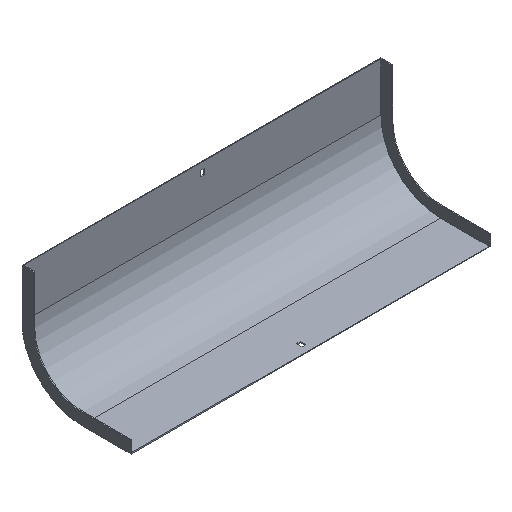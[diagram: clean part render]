
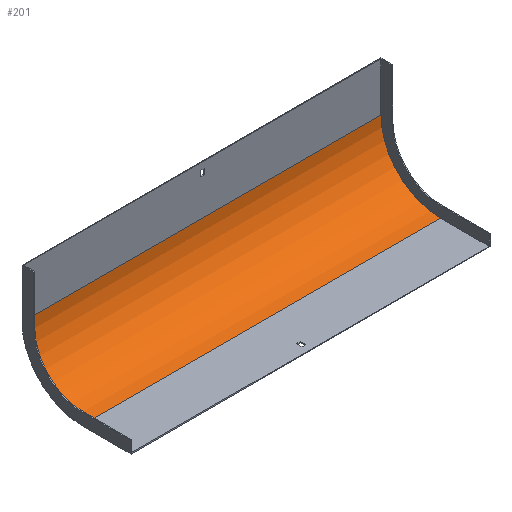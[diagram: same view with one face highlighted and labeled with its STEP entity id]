
A CAD part, isometric view. The second image highlights one B-rep face of the part: STEP entity #201.
In plain terms, the highlighted cylindrical face has radius 100 mm (diameter 200 mm), a partial arc.
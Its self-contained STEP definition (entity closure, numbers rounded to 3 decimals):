
#6 = CARTESIAN_POINT ( 'NONE',  ( 302., -1.5, -82. ) ) ;
#37 = DIRECTION ( 'NONE',  ( 0., 0., 1. ) ) ;
#48 = CIRCLE ( 'NONE', #374, 100. ) ;
#68 = LINE ( 'NONE', #6, #373 ) ;
#74 = AXIS2_PLACEMENT_3D ( 'NONE', #379, #170, #177 ) ;
#97 = CYLINDRICAL_SURFACE ( 'NONE', #74, 100. ) ;
#114 = CARTESIAN_POINT ( 'NONE',  ( 300.5, -101.5, -182. ) ) ;
#170 = DIRECTION ( 'NONE',  ( -1., 0., 0. ) ) ;
#177 = DIRECTION ( 'NONE',  ( 0., 0., 1. ) ) ;
#198 = VERTEX_POINT ( 'NONE', #518 ) ;
#201 = ADVANCED_FACE ( 'NONE', ( #717 ), #97, .F. ) ;
#202 = ORIENTED_EDGE ( 'NONE', *, *, #757, .T. ) ;
#205 = CIRCLE ( 'NONE', #294, 100. ) ;
#219 = CARTESIAN_POINT ( 'NONE',  ( -300.5, -101.5, -182. ) ) ;
#269 = DIRECTION ( 'NONE',  ( 0., 0., 1. ) ) ;
#279 = VERTEX_POINT ( 'NONE', #641 ) ;
#290 = LINE ( 'NONE', #688, #543 ) ;
#294 = AXIS2_PLACEMENT_3D ( 'NONE', #605, #863, #269 ) ;
#373 = VECTOR ( 'NONE', #546, 1000. ) ;
#374 = AXIS2_PLACEMENT_3D ( 'NONE', #785, #586, #37 ) ;
#379 = CARTESIAN_POINT ( 'NONE',  ( 302., -101.5, -82. ) ) ;
#434 = EDGE_CURVE ( 'NONE', #520, #198, #205, .T. ) ;
#461 = EDGE_CURVE ( 'NONE', #691, #520, #290, .T. ) ;
#479 = ORIENTED_EDGE ( 'NONE', *, *, #665, .T. ) ;
#518 = CARTESIAN_POINT ( 'NONE',  ( -300.5, -1.5, -82. ) ) ;
#520 = VERTEX_POINT ( 'NONE', #219 ) ;
#543 = VECTOR ( 'NONE', #616, 1000. ) ;
#545 = ORIENTED_EDGE ( 'NONE', *, *, #434, .F. ) ;
#546 = DIRECTION ( 'NONE',  ( -1., 0., 0. ) ) ;
#586 = DIRECTION ( 'NONE',  ( 1., 0., 0. ) ) ;
#605 = CARTESIAN_POINT ( 'NONE',  ( -300.5, -101.5, -82. ) ) ;
#616 = DIRECTION ( 'NONE',  ( -1., 0., 0. ) ) ;
#641 = CARTESIAN_POINT ( 'NONE',  ( 300.5, -1.5, -82. ) ) ;
#665 = EDGE_CURVE ( 'NONE', #691, #279, #48, .T. ) ;
#688 = CARTESIAN_POINT ( 'NONE',  ( 302., -101.5, -182. ) ) ;
#691 = VERTEX_POINT ( 'NONE', #114 ) ;
#706 = ORIENTED_EDGE ( 'NONE', *, *, #461, .F. ) ;
#717 = FACE_OUTER_BOUND ( 'NONE', #769, .T. ) ;
#757 = EDGE_CURVE ( 'NONE', #279, #198, #68, .T. ) ;
#769 = EDGE_LOOP ( 'NONE', ( #545, #706, #479, #202 ) ) ;
#785 = CARTESIAN_POINT ( 'NONE',  ( 300.5, -101.5, -82. ) ) ;
#863 = DIRECTION ( 'NONE',  ( 1., 0., 0. ) ) ;
